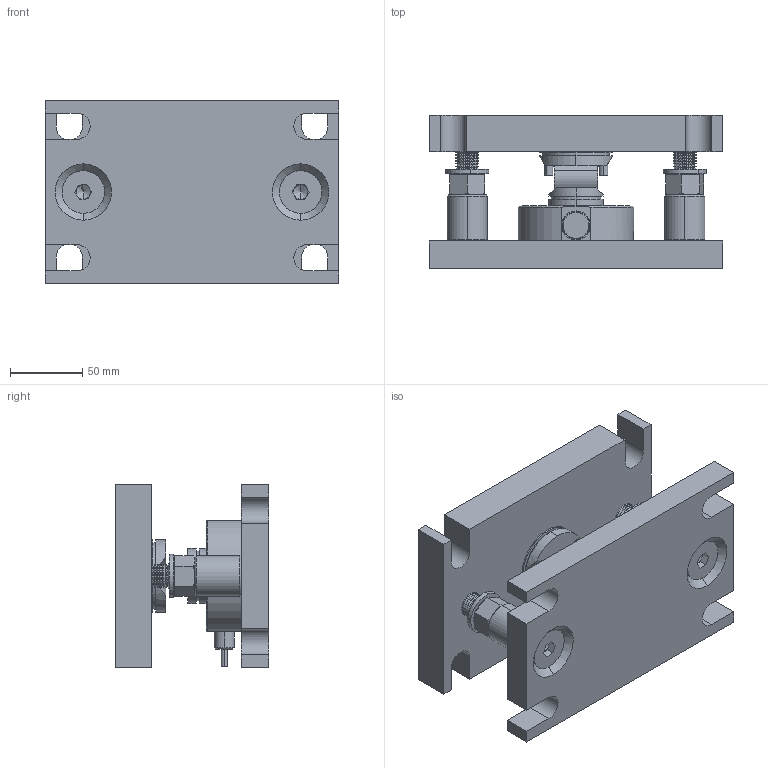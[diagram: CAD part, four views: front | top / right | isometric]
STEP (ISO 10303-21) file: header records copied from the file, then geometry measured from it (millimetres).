
FILE_DESCRIPTION (( 'STEP AP214' ), '1' );
FILE_NAME ('EBH-RB-220-5t.STEP', '2014-03-25T10:37:27', ( '' ), ( '' ), 'SwSTEP 2.0', 'SolidWorks 2014', '' );
FILE_SCHEMA (( 'AUTOMOTIVE_DESIGN' ));
Length unit declared in the file: millimetre
Products named in the file (14): 220-5t; Spring pin coiled_hd_ISO_ISO 8748-6x24-St; Hex Nut Style 1 GradeAB_ISO_Hexagon Nut ISO - 4032 - M16 - W - N; Plain Washer Grade C_DIN_Washer DIN 126 - 17.5; Socket Countersunk Head Screw_DIN_DIN 7991 - M16 x 70 --- 70S; EBH-RB-220-5t Anschraubplatte; EBH-RB-220-5t Druckstück oben; EBH-RB-220-5t Rolle; EBH-RB-220-5t Druckstück; Socket Countersunk Head Screw_DIN_DIN 7991 - M16 x 30 --- 30S; EBH-RB-220-5t Distanzgewinde; Spring Pin Slotted_LD_DIN_Spring Pin ISO 13337 - 4 x 12 - St; EBH-RB-220-5t Grundplatte; EBH-RB-220-5t
Assembly tree (20 placements, depth 2):
  EBH-RB-220-5t
    EBH-RB-220-5t Grundplatte
    Spring Pin Slotted_LD_DIN_Spring Pin ISO 13337 - 4 x 12 - St  x2
    EBH-RB-220-5t Distanzgewinde  x2
    Socket Countersunk Head Screw_DIN_DIN 7991 - M16 x 30 --- 30S  x2
    EBH-RB-220-5t Druckstück
    EBH-RB-220-5t Rolle
    EBH-RB-220-5t Druckstück oben
    EBH-RB-220-5t Anschraubplatte
    Socket Countersunk Head Screw_DIN_DIN 7991 - M16 x 70 --- 70S  x2
    Plain Washer Grade C_DIN_Washer DIN 126 - 17.5  x2
    Hex Nut Style 1 GradeAB_ISO_Hexagon Nut ISO - 4032 - M16 - W - N  x2
    Spring pin coiled_hd_ISO_ISO 8748-6x24-St  x2
    220-5t
Bounding box: 203 x 106.03 x 127 mm (x, y, z)
Volume: 1225792.6 mm3; surface area: 212260.1 mm2
Topology: 20 solids, 20 shells, 932 faces, 2315 edges, 1427 vertices
Faces by surface type: cone 430, cylinder 300, plane 188, torus 14
Entity records: 18062 total; most frequent: CARTESIAN_POINT 3355, DIRECTION 3256, ORIENTED_EDGE 2796, EDGE_CURVE 1398, AXIS2_PLACEMENT_3D 1324, VERTEX_POINT 875, CIRCLE 730, EDGE_LOOP 615
